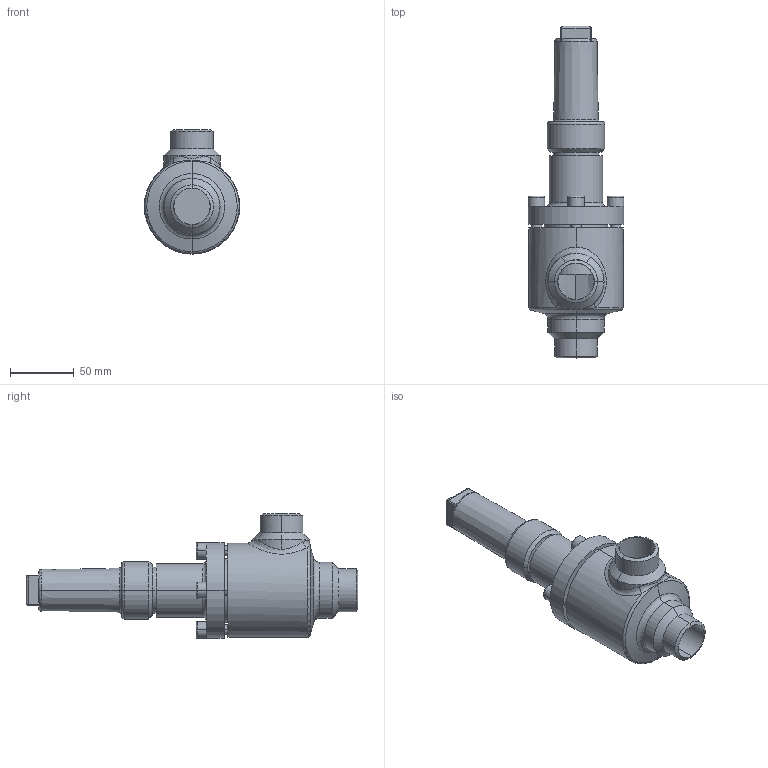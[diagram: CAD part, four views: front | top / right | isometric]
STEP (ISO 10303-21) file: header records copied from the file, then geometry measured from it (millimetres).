
FILE_DESCRIPTION (( 'STEP AP214' ), '1' );
FILE_NAME ('RVA29400D12-DN025_R1_PS40.STEP', '2006-04-28T05:39:49', ( 'Herr Grams' ), ( 'AWP GmbH' ), 'SwSTEP 2.0', 'SolidWorks 2002296', '' );
FILE_SCHEMA (( 'AUTOMOTIVE_DESIGN' ));
Length unit declared in the file: millimetre
Products named in the file (6): RVA29400D12-DN025_R1_PS40; Gehäuse16400-DN025_Standard; Kappe16402_DN010-32_Standard; RVA29300E13_Deck-Schr-DN25-32_Standard; Deckel29300E13-DN25-32_Standard; Zylinderschraube-DIN912_M 8x 25
Assembly tree (8 placements, depth 3):
  RVA29400D12-DN025_R1_PS40
    Gehäuse16400-DN025_Standard
    Kappe16402_DN010-32_Standard
    RVA29300E13_Deck-Schr-DN25-32_Standard
      Zylinderschraube-DIN912_M 8x 25  x4
      Deckel29300E13-DN25-32_Standard
Bounding box: 75 x 260.5 x 97.5 mm (x, y, z)
Volume: 432063.3 mm3; surface area: 94239.3 mm2
Topology: 7 solids, 7 shells, 202 faces, 445 edges, 278 vertices
Faces by surface type: cylinder 77, plane 70, cone 29, torus 23, bspline 3
Entity records: 14551 total; most frequent: CARTESIAN_POINT 10672, DIRECTION 769, ORIENTED_EDGE 662, EDGE_CURVE 331, AXIS2_PLACEMENT_3D 326, VERTEX_POINT 206, EDGE_LOOP 175, CIRCLE 169
